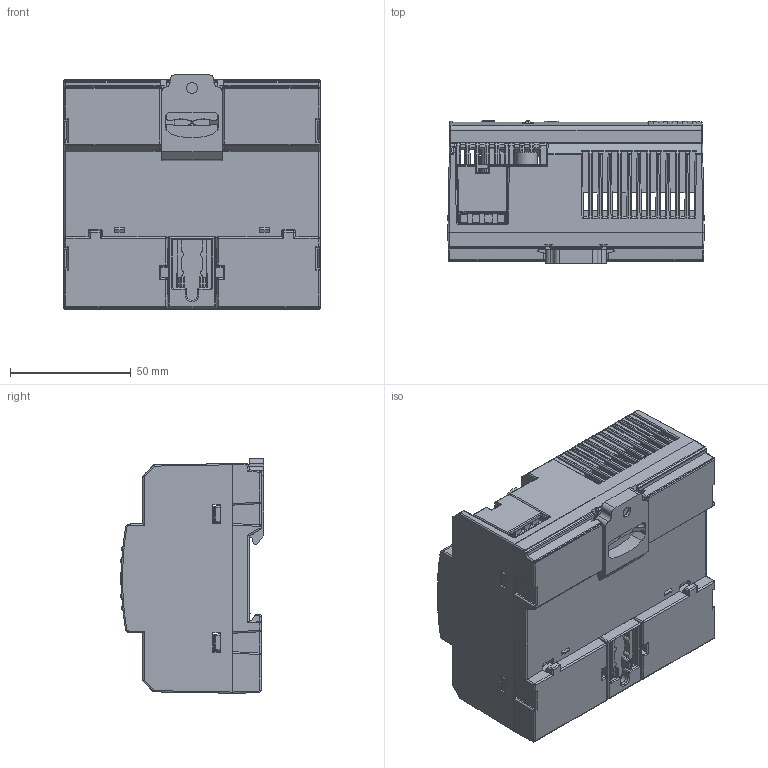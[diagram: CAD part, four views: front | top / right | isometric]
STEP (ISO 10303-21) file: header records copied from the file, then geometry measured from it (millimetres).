
FILE_DESCRIPTION (( 'STEP AP214' ), '1' );
FILE_NAME ('ALE2902M.STEP', '2015-12-10T09:50:00', ( '' ), ( '' ), 'SwSTEP 2.0', 'SolidWorks 2016', '' );
FILE_SCHEMA (( 'AUTOMOTIVE_DESIGN' ));
Length unit declared in the file: millimetre
Products named in the file (1): ALE2902M
Bounding box: 106 x 59.4 x 96.98 mm (x, y, z)
Volume: 126176.3 mm3; surface area: 124802.3 mm2
Topology: 22 solids, 22 shells, 3676 faces, 9629 edges, 5813 vertices
Faces by surface type: plane 1561, cylinder 1535, sphere 281, bspline 223, torus 41, cone 35
Entity records: 156376 total; most frequent: CARTESIAN_POINT 31736, ORIENTED_EDGE 18964, DIRECTION 16048, EDGE_CURVE 9482, VECTOR 5810, LINE 5810, VERTEX_POINT 5805, AXIS2_PLACEMENT_3D 5119
